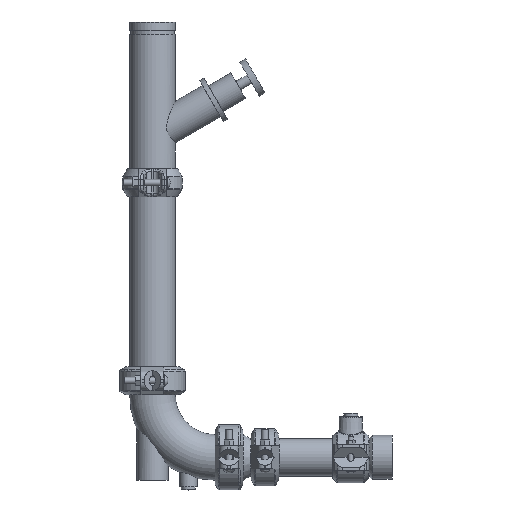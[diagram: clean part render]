
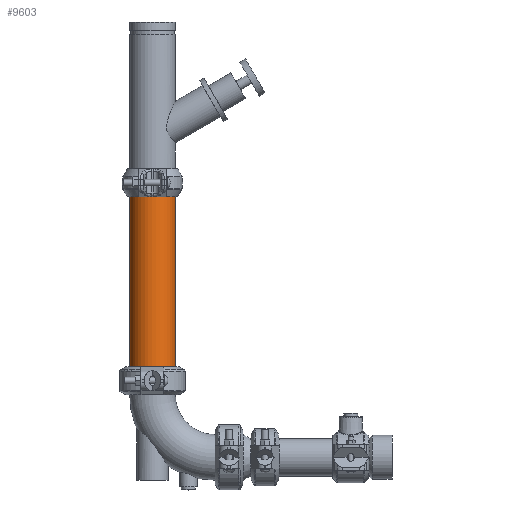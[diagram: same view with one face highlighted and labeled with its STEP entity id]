
A CAD part, top view. The second image highlights one B-rep face of the part: STEP entity #9603.
In plain terms, the highlighted cylindrical face has radius 44.45 mm (diameter 88.9 mm), a full revolution.
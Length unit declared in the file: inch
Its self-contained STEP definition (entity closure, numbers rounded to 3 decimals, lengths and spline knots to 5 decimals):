
#413=CYLINDRICAL_SURFACE('',#10722,1.75);
#1304=LINE('',#16503,#1962);
#1962=VECTOR('',#13073,1.75);
#2505=FACE_OUTER_BOUND('',#3071,.T.);
#3071=EDGE_LOOP('',(#7918,#7919,#7920,#7921,#7922,#7923));
#3608=CIRCLE('',#10720,1.75);
#3609=CIRCLE('',#10721,1.75);
#3610=CIRCLE('',#10723,1.75);
#3611=CIRCLE('',#10724,1.75);
#4395=VERTEX_POINT('',#16494);
#4396=VERTEX_POINT('',#16495);
#4397=VERTEX_POINT('',#16499);
#4398=VERTEX_POINT('',#16500);
#5617=EDGE_CURVE('',#4395,#4396,#3608,.T.);
#5618=EDGE_CURVE('',#4396,#4395,#3609,.T.);
#5619=EDGE_CURVE('',#4397,#4398,#3610,.T.);
#5620=EDGE_CURVE('',#4398,#4397,#3611,.T.);
#5621=EDGE_CURVE('',#4398,#4396,#1304,.T.);
#7918=ORIENTED_EDGE('',*,*,#5619,.F.);
#7919=ORIENTED_EDGE('',*,*,#5620,.F.);
#7920=ORIENTED_EDGE('',*,*,#5621,.T.);
#7921=ORIENTED_EDGE('',*,*,#5618,.T.);
#7922=ORIENTED_EDGE('',*,*,#5617,.T.);
#7923=ORIENTED_EDGE('',*,*,#5621,.F.);
#9603=ADVANCED_FACE('',(#2505),#413,.T.);
#10720=AXIS2_PLACEMENT_3D('',#16496,#13063,#13064);
#10721=AXIS2_PLACEMENT_3D('',#16497,#13065,#13066);
#10722=AXIS2_PLACEMENT_3D('',#16498,#13067,#13068);
#10723=AXIS2_PLACEMENT_3D('',#16501,#13069,#13070);
#10724=AXIS2_PLACEMENT_3D('',#16502,#13071,#13072);
#13063=DIRECTION('center_axis',(1.,0.,0.));
#13064=DIRECTION('ref_axis',(0.,0.,-1.));
#13065=DIRECTION('center_axis',(1.,0.,0.));
#13066=DIRECTION('ref_axis',(0.,0.,-1.));
#13067=DIRECTION('center_axis',(1.,0.,0.));
#13068=DIRECTION('ref_axis',(0.,1.,0.));
#13069=DIRECTION('center_axis',(1.,0.,0.));
#13070=DIRECTION('ref_axis',(0.,0.,-1.));
#13071=DIRECTION('center_axis',(1.,0.,0.));
#13072=DIRECTION('ref_axis',(0.,0.,-1.));
#13073=DIRECTION('',(-1.,0.,0.));
#16494=CARTESIAN_POINT('',(-6.521,1.75,0.));
#16495=CARTESIAN_POINT('',(-6.521,-1.75,0.));
#16496=CARTESIAN_POINT('Origin',(-6.521,0.,0.));
#16497=CARTESIAN_POINT('Origin',(-6.521,0.,0.));
#16498=CARTESIAN_POINT('Origin',(0.,0.,0.));
#16499=CARTESIAN_POINT('',(6.521,1.75,0.));
#16500=CARTESIAN_POINT('',(6.521,-1.75,0.));
#16501=CARTESIAN_POINT('Origin',(6.521,0.,0.));
#16502=CARTESIAN_POINT('Origin',(6.521,0.,0.));
#16503=CARTESIAN_POINT('',(0.,-1.75,0.));
